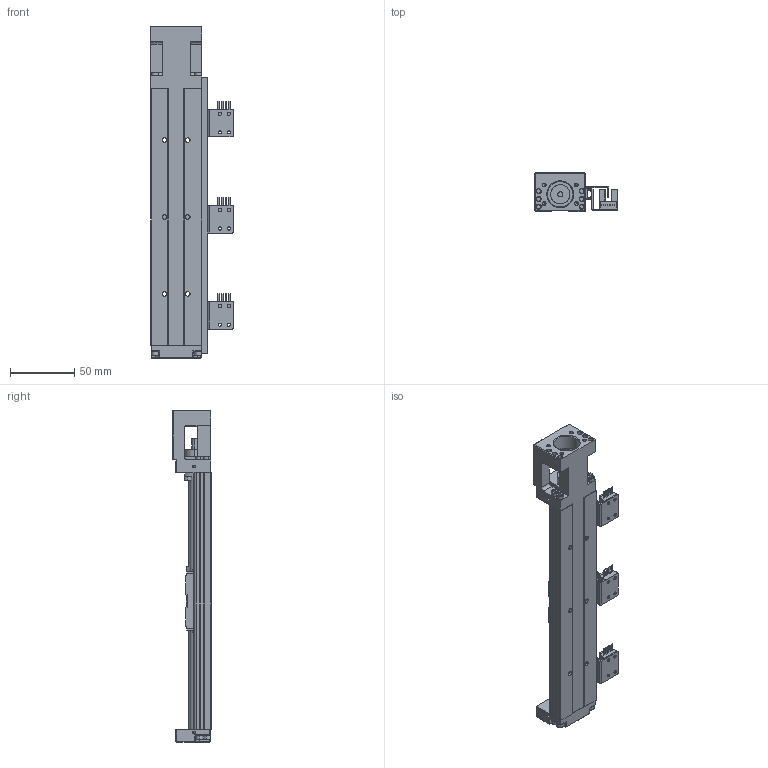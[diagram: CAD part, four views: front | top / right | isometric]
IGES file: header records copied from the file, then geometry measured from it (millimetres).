
Start section: SolidWorks IGES file using analytic representation for surfaces
Bounding box: 64.55 x 30 x 259 mm (x, y, z)
Surface area: 71489.6 mm2 (no closed solid volume)
Topology: 0 solids, 0 shells, 1147 faces, 13458 edges, 13376 vertices
Faces by surface type: bspline 651, revolution 496
